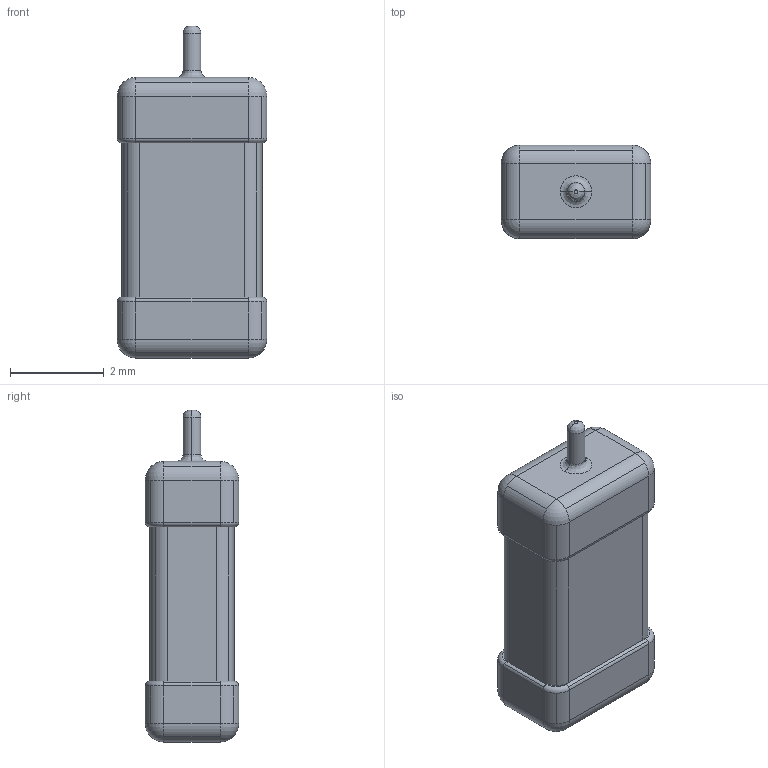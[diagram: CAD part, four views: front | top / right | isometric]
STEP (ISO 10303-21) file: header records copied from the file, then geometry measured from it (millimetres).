
FILE_DESCRIPTION((''),'2;1');
FILE_NAME('591D_C-case_20H.stp','2019-05-02T10:57:01',(''),(''),'AutoCAD STEP 2000i','AutoCAD 2000i',', , ');
FILE_SCHEMA(('CONFIG_CONTROL_DESIGN'));
Length unit declared in the file: millimetre
Products named in the file (2): 591D_C-CASE_20H; MODEL
Assembly tree (1 placements, depth 2):
  591D_C-CASE_20H
    MODEL
Bounding box: 3.2 x 2 x 7.1 mm (x, y, z)
Volume: 33.8 mm3; surface area: 67.1 mm2
Topology: 1 solids, 1 shells, 101 faces, 242 edges, 136 vertices
Faces by surface type: cylinder 58, plane 23, torus 8, sphere 8, bspline 4
Entity records: 3129 total; most frequent: CARTESIAN_POINT 649, DIRECTION 564, ORIENTED_EDGE 468, EDGE_CURVE 234, AXIS2_PLACEMENT_3D 231, VERTEX_POINT 136, CIRCLE 132, VECTOR 102
